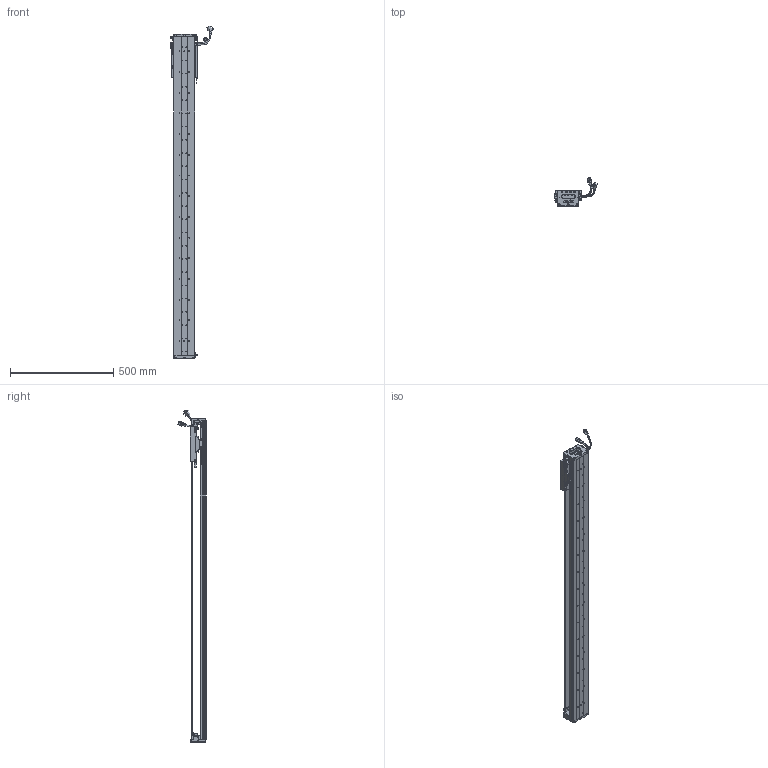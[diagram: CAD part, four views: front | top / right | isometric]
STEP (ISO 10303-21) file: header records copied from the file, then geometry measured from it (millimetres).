
FILE_DESCRIPTION (( 'STEP AP203' ), '1' );
FILE_NAME ('Z2-RY100D-1-L500-B-K.SLDASM_1300.step', '2021-05-17T02:36:13', ( '盈信电脑' ), ( '东莞市道滘镇水果街19号' ), 'SwSTEP 2.0', 'SolidWorks 2016', '' );
FILE_SCHEMA (( 'CONFIG_CONTROL_DESIGN' ));
Length unit declared in the file: millimetre
Products named in the file (36): Z2-RY100-L500詩湍90mm遵_1300; HARNESS; SCREW-M1.6; 100-Z-臏賑輸盄裔(21遴); SCREW-M1.7; LABEL-Part-1; 榋妏寠巭燃_暯_M2_2; Z-RY100D覜茼んえ; Z-RY100D詩湍奻揤裔; SCALE; SEAL; Z-100詩湍傷裔啣; SCREW-M1.6-2; SEAL-Part-1; PSLH080_PSLF2; 080黍杅芛假蚾釱21遴; SCREW-M1.6-3; COVER-Part-1; 140雄赽晤鎢ん堤盄; HARNESS-Part-1; 覜茼ん672; SCREW-M1.6-1; Z2-RY100D-500-倰第菁釱_1300; LABEL; Z-RY100D詩湍狟揤裔; 140蚥薯蝶輸; SCALE-Part-2; SHIELDPLATE; SCALE-Part-1; Z2-RY100D-1-L500-B-K.SLDASM_1300; HOLDER0; COVER; HARNESS-Part-2; SCREW-M1.7-1; Z2-RY100铝滑块（21款）; PBU_SHEET
Assembly tree (43 placements, depth 4):
  Z2-RY100D-1-L500-B-K.SLDASM_1300
    Z2-RY100D-500-倰第菁釱_1300
    Z2-RY100铝滑块（21款）
    PSLH080_PSLF2
      SCALE
        SCALE-Part-1
        SCALE-Part-2
      HARNESS
        HARNESS-Part-1
        HARNESS-Part-2
      LABEL
        LABEL-Part-1
      COVER
        COVER-Part-1
      SEAL
        SEAL-Part-1
      榋妏寠巭燃_暯_M2_2
      SHIELDPLATE
      SCREW-M1.7
      SCREW-M1.7-1
      PBU_SHEET
      SCREW-M1.6
      SCREW-M1.6-1
      SCREW-M1.6-2
      SCREW-M1.6-3
      HOLDER0
    080黍杅芛假蚾釱21遴
    Z-100詩湍傷裔啣  x2
    140蚥薯蝶輸  x2
    覜茼ん672  x3
    Z-RY100D覜茼んえ  x3
    100-Z-臏賑輸盄裔(21遴)
    140雄赽晤鎢ん堤盄
    Z2-RY100-L500詩湍90mm遵_1300
    Z-RY100D詩湍狟揤裔  x2
    Z-RY100D詩湍奻揤裔  x2
Bounding box: 205.83 x 136.11 x 1605.43 mm (x, y, z)
Volume: 3089883.3 mm3; surface area: 1210802 mm2
Topology: 38 solids, 38 shells, 2692 faces, 7167 edges, 4552 vertices
Faces by surface type: cylinder 1214, plane 1138, cone 218, torus 69, bspline 53
Entity records: 74779 total; most frequent: CARTESIAN_POINT 15756, DIRECTION 11895, ORIENTED_EDGE 11230, EDGE_CURVE 5615, AXIS2_PLACEMENT_3D 4403, VERTEX_POINT 3620, VECTOR 3089, LINE 3089
